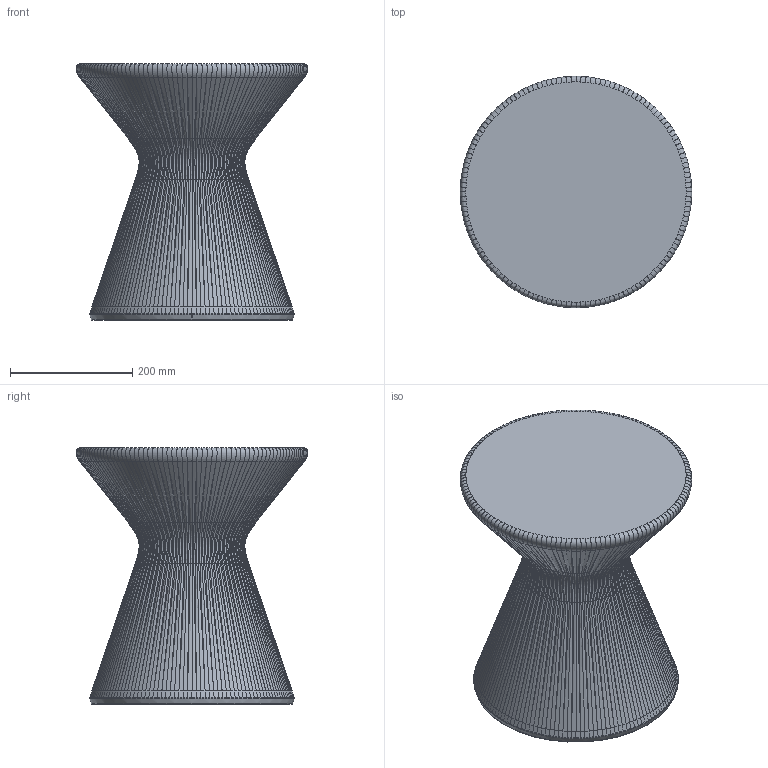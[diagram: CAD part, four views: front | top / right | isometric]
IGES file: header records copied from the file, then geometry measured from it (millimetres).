
Start section: START RECORD GO HERE.
Global section: file name: FADE-Low-Stool.igs; native system: DASSAULT SYSTEMES CATIA Version 5-6 Release 2020 - www.3ds.com; preprocessor: V5-6R2020_5.30.3.0.09-09-2020.20.00; author: samatori; organization: DOMAIN; date: 20220421.151556; units: millimetre
Bounding box: 378.39 x 378.39 x 420 mm (x, y, z)
Surface area: 609212.4 mm2 (no closed solid volume)
Topology: 0 solids, 0 shells, 1111 faces, 5048 edges, 4904 vertices
Faces by surface type: bspline 664, revolution 442, plane 5
